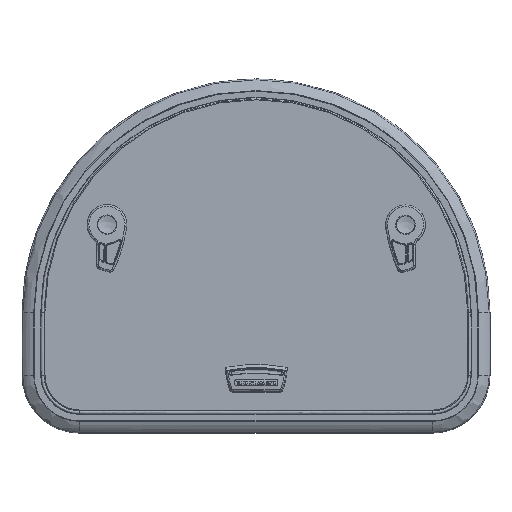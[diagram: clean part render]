
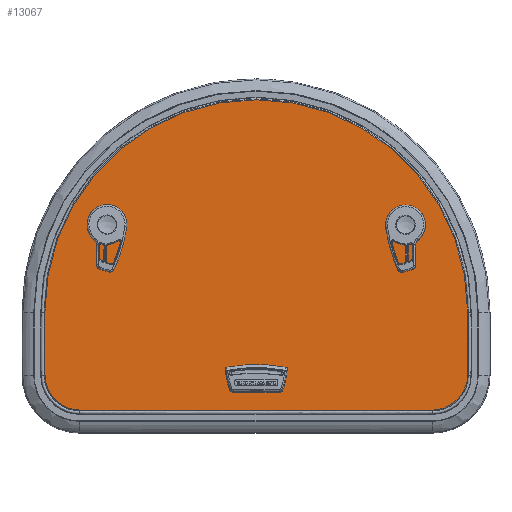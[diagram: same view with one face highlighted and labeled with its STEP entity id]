
A CAD part, top view. The second image highlights one B-rep face of the part: STEP entity #13067.
In plain terms, the highlighted planar face has unit normal (0, 0, 1) as drawn and (0, 1, 0) by its records, which use the part's own axes.
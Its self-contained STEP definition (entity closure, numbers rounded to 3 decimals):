
#12192=CARTESIAN_POINT('',(221.,8.,80.));
#12193=DIRECTION('',(0.,1.,0.));
#12194=DIRECTION('',(0.,0.,1.));
#12195=AXIS2_PLACEMENT_3D('',#12192,#12193,#12194);
#12197=DIRECTION('',(1.,0.,0.));
#12198=VECTOR('',#12197,442.);
#12199=CARTESIAN_POINT('',(-221.,8.,124.5));
#12200=LINE('',#12199,#12198);
#12201=CARTESIAN_POINT('',(-221.,8.,80.));
#12202=DIRECTION('',(0.,1.,0.));
#12203=DIRECTION('',(-1.,0.,0.));
#12204=AXIS2_PLACEMENT_3D('',#12201,#12202,#12203);
#12206=DIRECTION('',(0.,0.,1.));
#12207=VECTOR('',#12206,80.);
#12208=CARTESIAN_POINT('',(-265.5,8.,0.));
#12209=LINE('',#12208,#12207);
#12210=CARTESIAN_POINT('',(0.,8.,0.));
#12211=DIRECTION('',(0.,1.,0.));
#12212=DIRECTION('',(1.,0.,0.));
#12213=AXIS2_PLACEMENT_3D('',#12210,#12211,#12212);
#12215=DIRECTION('',(0.,0.,-1.));
#12216=VECTOR('',#12215,80.);
#12217=CARTESIAN_POINT('',(265.5,8.,80.));
#12218=LINE('',#12217,#12216);
#12219=CARTESIAN_POINT('',(-21.55,8.,89.));
#12220=DIRECTION('',(0.,1.,0.));
#12221=DIRECTION('',(0.,0.,-1.));
#12222=AXIS2_PLACEMENT_3D('',#12219,#12220,#12221);
#12224=DIRECTION('',(1.,0.,0.));
#12225=VECTOR('',#12224,43.1);
#12226=CARTESIAN_POINT('',(-21.55,8.,94.5));
#12227=LINE('',#12226,#12225);
#12228=CARTESIAN_POINT('',(21.55,8.,89.));
#12229=DIRECTION('',(0.,1.,0.));
#12230=DIRECTION('',(0.,0.,1.));
#12231=AXIS2_PLACEMENT_3D('',#12228,#12229,#12230);
#12233=DIRECTION('',(-1.,0.,0.));
#12234=VECTOR('',#12233,43.1);
#12235=CARTESIAN_POINT('',(21.55,8.,83.5));
#12236=LINE('',#12235,#12234);
#12237=DIRECTION('',(-0.866,0.,-0.5));
#12238=VECTOR('',#12237,5.2);
#12239=CARTESIAN_POINT('',(194.796,8.,-115.697));
#12240=LINE('',#12239,#12238);
#12241=CARTESIAN_POINT('',(187.793,8.,-113.967));
#12242=DIRECTION('',(0.,1.,0.));
#12243=DIRECTION('',(0.5,0.,-0.866));
#12244=AXIS2_PLACEMENT_3D('',#12241,#12242,#12243);
#12246=DIRECTION('',(-0.5,0.,0.866));
#12247=VECTOR('',#12246,10.2);
#12248=CARTESIAN_POINT('',(183.463,8.,-116.467));
#12249=LINE('',#12248,#12247);
#12250=CARTESIAN_POINT('',(182.693,8.,-105.133));
#12251=DIRECTION('',(0.,1.,0.));
#12252=DIRECTION('',(-0.866,0.,-0.5));
#12253=AXIS2_PLACEMENT_3D('',#12250,#12251,#12252);
#12255=DIRECTION('',(0.866,0.,0.5));
#12256=VECTOR('',#12255,5.2);
#12257=CARTESIAN_POINT('',(180.193,8.,-100.803));
#12258=LINE('',#12257,#12256);
#12259=CARTESIAN_POINT('',(187.196,8.,-102.533));
#12260=DIRECTION('',(0.,1.,0.));
#12261=DIRECTION('',(-0.5,0.,0.866));
#12262=AXIS2_PLACEMENT_3D('',#12259,#12260,#12261);
#12264=DIRECTION('',(0.5,0.,-0.866));
#12265=VECTOR('',#12264,10.2);
#12266=CARTESIAN_POINT('',(191.526,8.,-100.033));
#12267=LINE('',#12266,#12265);
#12268=CARTESIAN_POINT('',(192.296,8.,-111.367));
#12269=DIRECTION('',(0.,1.,0.));
#12270=DIRECTION('',(0.866,0.,0.5));
#12271=AXIS2_PLACEMENT_3D('',#12268,#12269,#12270);
#12273=DIRECTION('',(0.866,0.,-0.5));
#12274=VECTOR('',#12273,5.2);
#12275=CARTESIAN_POINT('',(-194.796,8.,-115.697));
#12276=LINE('',#12275,#12274);
#12277=CARTESIAN_POINT('',(-192.296,8.,-111.367));
#12278=DIRECTION('',(0.,-1.,0.));
#12279=DIRECTION('',(-0.866,0.,0.5));
#12280=AXIS2_PLACEMENT_3D('',#12277,#12278,#12279);
#12282=DIRECTION('',(-0.5,0.,-0.866));
#12283=VECTOR('',#12282,10.2);
#12284=CARTESIAN_POINT('',(-191.526,8.,-100.033));
#12285=LINE('',#12284,#12283);
#12286=CARTESIAN_POINT('',(-187.196,8.,-102.533));
#12287=DIRECTION('',(0.,-1.,0.));
#12288=DIRECTION('',(0.5,0.,0.866));
#12289=AXIS2_PLACEMENT_3D('',#12286,#12287,#12288);
#12291=DIRECTION('',(-0.866,0.,0.5));
#12292=VECTOR('',#12291,5.2);
#12293=CARTESIAN_POINT('',(-180.193,8.,-100.803));
#12294=LINE('',#12293,#12292);
#12295=CARTESIAN_POINT('',(-182.693,8.,-105.133));
#12296=DIRECTION('',(0.,-1.,0.));
#12297=DIRECTION('',(0.866,0.,-0.5));
#12298=AXIS2_PLACEMENT_3D('',#12295,#12296,#12297);
#12300=DIRECTION('',(0.5,0.,0.866));
#12301=VECTOR('',#12300,10.2);
#12302=CARTESIAN_POINT('',(-183.463,8.,-116.467));
#12303=LINE('',#12302,#12301);
#12304=CARTESIAN_POINT('',(-187.793,8.,-113.967));
#12305=DIRECTION('',(0.,-1.,0.));
#12306=DIRECTION('',(-0.5,0.,-0.866));
#12307=AXIS2_PLACEMENT_3D('',#12304,#12305,#12306);
#12488=CARTESIAN_POINT('',(221.,8.,124.5));
#12489=CARTESIAN_POINT('',(265.5,8.,80.));
#12490=VERTEX_POINT('',#12488);
#12491=VERTEX_POINT('',#12489);
#12492=CARTESIAN_POINT('',(265.5,8.,0.));
#12493=VERTEX_POINT('',#12492);
#12494=CARTESIAN_POINT('',(-265.5,8.,0.));
#12495=VERTEX_POINT('',#12494);
#12496=CARTESIAN_POINT('',(-265.5,8.,80.));
#12497=VERTEX_POINT('',#12496);
#12498=CARTESIAN_POINT('',(-221.,8.,124.5));
#12499=VERTEX_POINT('',#12498);
#12520=CARTESIAN_POINT('',(-21.55,8.,83.5));
#12521=CARTESIAN_POINT('',(-21.55,8.,94.5));
#12522=VERTEX_POINT('',#12520);
#12523=VERTEX_POINT('',#12521);
#12524=CARTESIAN_POINT('',(21.55,8.,94.5));
#12525=VERTEX_POINT('',#12524);
#12526=CARTESIAN_POINT('',(21.55,8.,83.5));
#12527=VERTEX_POINT('',#12526);
#12544=CARTESIAN_POINT('',(194.796,8.,-115.697));
#12545=CARTESIAN_POINT('',(190.293,8.,-118.297));
#12546=VERTEX_POINT('',#12544);
#12547=VERTEX_POINT('',#12545);
#12548=CARTESIAN_POINT('',(183.463,8.,-116.467));
#12549=VERTEX_POINT('',#12548);
#12550=CARTESIAN_POINT('',(178.363,8.,-107.633));
#12551=VERTEX_POINT('',#12550);
#12552=CARTESIAN_POINT('',(180.193,8.,-100.803));
#12553=VERTEX_POINT('',#12552);
#12554=CARTESIAN_POINT('',(184.696,8.,-98.203));
#12555=VERTEX_POINT('',#12554);
#12556=CARTESIAN_POINT('',(191.526,8.,-100.033));
#12557=VERTEX_POINT('',#12556);
#12558=CARTESIAN_POINT('',(196.626,8.,-108.867));
#12559=VERTEX_POINT('',#12558);
#12576=CARTESIAN_POINT('',(-194.796,8.,-115.697));
#12577=CARTESIAN_POINT('',(-190.293,8.,-118.297));
#12578=VERTEX_POINT('',#12576);
#12579=VERTEX_POINT('',#12577);
#12580=CARTESIAN_POINT('',(-183.463,8.,-116.467));
#12581=VERTEX_POINT('',#12580);
#12582=CARTESIAN_POINT('',(-178.363,8.,-107.633));
#12583=VERTEX_POINT('',#12582);
#12584=CARTESIAN_POINT('',(-180.193,8.,-100.803));
#12585=VERTEX_POINT('',#12584);
#12586=CARTESIAN_POINT('',(-184.696,8.,-98.203));
#12587=VERTEX_POINT('',#12586);
#12588=CARTESIAN_POINT('',(-191.526,8.,-100.033));
#12589=VERTEX_POINT('',#12588);
#12590=CARTESIAN_POINT('',(-196.626,8.,-108.867));
#12591=VERTEX_POINT('',#12590);
#13003=CARTESIAN_POINT('',(0.,8.,0.));
#13004=DIRECTION('',(0.,1.,0.));
#13005=DIRECTION('',(1.,0.,0.));
#13006=AXIS2_PLACEMENT_3D('',#13003,#13004,#13005);
#13007=PLANE('',#13006);
#13009=ORIENTED_EDGE('',*,*,#13008,.F.);
#13011=ORIENTED_EDGE('',*,*,#13010,.F.);
#13013=ORIENTED_EDGE('',*,*,#13012,.F.);
#13014=ORIENTED_EDGE('',*,*,#12993,.F.);
#13016=ORIENTED_EDGE('',*,*,#13015,.F.);
#13018=ORIENTED_EDGE('',*,*,#13017,.F.);
#13019=EDGE_LOOP('',(#13009,#13011,#13013,#13014,#13016,#13018));
#13020=FACE_OUTER_BOUND('',#13019,.F.);
#13022=ORIENTED_EDGE('',*,*,#13021,.T.);
#13024=ORIENTED_EDGE('',*,*,#13023,.T.);
#13026=ORIENTED_EDGE('',*,*,#13025,.T.);
#13028=ORIENTED_EDGE('',*,*,#13027,.T.);
#13029=EDGE_LOOP('',(#13022,#13024,#13026,#13028));
#13030=FACE_BOUND('',#13029,.F.);
#13032=ORIENTED_EDGE('',*,*,#13031,.T.);
#13034=ORIENTED_EDGE('',*,*,#13033,.T.);
#13036=ORIENTED_EDGE('',*,*,#13035,.T.);
#13038=ORIENTED_EDGE('',*,*,#13037,.T.);
#13040=ORIENTED_EDGE('',*,*,#13039,.T.);
#13042=ORIENTED_EDGE('',*,*,#13041,.T.);
#13044=ORIENTED_EDGE('',*,*,#13043,.T.);
#13046=ORIENTED_EDGE('',*,*,#13045,.T.);
#13047=EDGE_LOOP('',(#13032,#13034,#13036,#13038,#13040,#13042,#13044,#13046));
#13048=FACE_BOUND('',#13047,.F.);
#13050=ORIENTED_EDGE('',*,*,#13049,.F.);
#13052=ORIENTED_EDGE('',*,*,#13051,.F.);
#13054=ORIENTED_EDGE('',*,*,#13053,.F.);
#13056=ORIENTED_EDGE('',*,*,#13055,.F.);
#13058=ORIENTED_EDGE('',*,*,#13057,.F.);
#13060=ORIENTED_EDGE('',*,*,#13059,.F.);
#13062=ORIENTED_EDGE('',*,*,#13061,.F.);
#13064=ORIENTED_EDGE('',*,*,#13063,.F.);
#13065=EDGE_LOOP('',(#13050,#13052,#13054,#13056,#13058,#13060,#13062,#13064));
#13066=FACE_BOUND('',#13065,.F.);
#13067=ADVANCED_FACE('',(#13020,#13030,#13048,#13066),#13007,.T.);
#12196=CIRCLE('',#12195,44.5);
#12205=CIRCLE('',#12204,44.5);
#12214=CIRCLE('',#12213,265.5);
#12223=CIRCLE('',#12222,5.5);
#12232=CIRCLE('',#12231,5.5);
#12245=CIRCLE('',#12244,5.);
#12254=CIRCLE('',#12253,5.);
#12263=CIRCLE('',#12262,5.);
#12272=CIRCLE('',#12271,5.);
#12281=CIRCLE('',#12280,5.);
#12290=CIRCLE('',#12289,5.);
#12299=CIRCLE('',#12298,5.);
#12308=CIRCLE('',#12307,5.);
#12993=EDGE_CURVE('',#12495,#12497,#12209,.T.);
#13008=EDGE_CURVE('',#12490,#12491,#12196,.T.);
#13010=EDGE_CURVE('',#12499,#12490,#12200,.T.);
#13012=EDGE_CURVE('',#12497,#12499,#12205,.T.);
#13015=EDGE_CURVE('',#12493,#12495,#12214,.T.);
#13017=EDGE_CURVE('',#12491,#12493,#12218,.T.);
#13021=EDGE_CURVE('',#12522,#12523,#12223,.T.);
#13023=EDGE_CURVE('',#12523,#12525,#12227,.T.);
#13025=EDGE_CURVE('',#12525,#12527,#12232,.T.);
#13027=EDGE_CURVE('',#12527,#12522,#12236,.T.);
#13031=EDGE_CURVE('',#12546,#12547,#12240,.T.);
#13033=EDGE_CURVE('',#12547,#12549,#12245,.T.);
#13035=EDGE_CURVE('',#12549,#12551,#12249,.T.);
#13037=EDGE_CURVE('',#12551,#12553,#12254,.T.);
#13039=EDGE_CURVE('',#12553,#12555,#12258,.T.);
#13041=EDGE_CURVE('',#12555,#12557,#12263,.T.);
#13043=EDGE_CURVE('',#12557,#12559,#12267,.T.);
#13045=EDGE_CURVE('',#12559,#12546,#12272,.T.);
#13049=EDGE_CURVE('',#12578,#12579,#12276,.T.);
#13051=EDGE_CURVE('',#12591,#12578,#12281,.T.);
#13053=EDGE_CURVE('',#12589,#12591,#12285,.T.);
#13055=EDGE_CURVE('',#12587,#12589,#12290,.T.);
#13057=EDGE_CURVE('',#12585,#12587,#12294,.T.);
#13059=EDGE_CURVE('',#12583,#12585,#12299,.T.);
#13061=EDGE_CURVE('',#12581,#12583,#12303,.T.);
#13063=EDGE_CURVE('',#12579,#12581,#12308,.T.);
